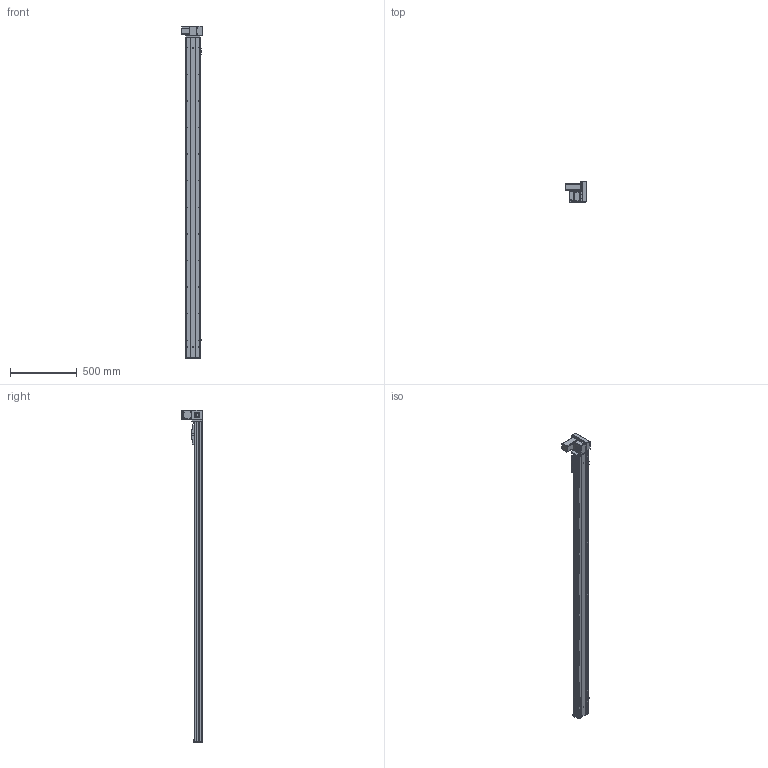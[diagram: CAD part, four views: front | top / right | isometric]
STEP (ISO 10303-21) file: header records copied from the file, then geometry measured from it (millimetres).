
FILE_DESCRIPTION (( 'STEP AP203' ), '1' );
FILE_NAME ('Y10CB-D90-S2150-UR-P400W.STEP', '2020-02-16T04:06:17', ( '微软用户' ), ( '微软中国' ), 'SwSTEP 2.0', 'SolidWorks 2017', '' );
FILE_SCHEMA (( 'CONFIG_CONTROL_DESIGN' ));
Length unit declared in the file: millimetre
Products named in the file (18): Y100-135俋离換覜ん--; 0B-源倛裔啣; Y10B--々湍喘謫眊--666; 0B-埴倛裔啣; Y10B-耜蚾蟀諉啣----; 10CB-詩湍-; 00B-俋欶BM--; Y10CB- 掛极耜裔啣-毀---; 0CB-雄赽釱---; Y10CB-D90-S2150-UR-P400W; Y10C---詩湍揤啣; 0Cb-俋欶---; 10CB9-掛极; Y10B-々湍喘謫眊楊擘啣--; 10CB-耜裔; 0B-萇儂楊擘啣; Y135C-陔俋离換覜結え-; san松下电机400不带刹车----
Assembly tree (21 placements, depth 2):
  Y10CB-D90-S2150-UR-P400W
    0CB-雄赽釱---
    0Cb-俋欶---
    Y10B-々湍喘謫眊楊擘啣--
    0B-萇儂楊擘啣
    san松下电机400不带刹车----
    0B-源倛裔啣
    0B-埴倛裔啣
    10CB-詩湍-
    Y10CB- 掛极耜裔啣-毀---  x2
    Y10C---詩湍揤啣  x2
    10CB9-掛极
    10CB-耜裔
    Y135C-陔俋离換覜結え-
    Y100-135俋离換覜ん--  x3
    Y10B--々湍喘謫眊--666
    Y10B-耜蚾蟀諉啣----
    00B-俋欶BM--
Bounding box: 157 x 155.5 x 2496 mm (x, y, z)
Volume: 5142496.6 mm3; surface area: 2424066.1 mm2
Topology: 21 solids, 21 shells, 1062 faces, 2883 edges, 1874 vertices
Faces by surface type: cylinder 549, plane 489, cone 24
Entity records: 33912 total; most frequent: CARTESIAN_POINT 6357, DIRECTION 5406, ORIENTED_EDGE 5236, EDGE_CURVE 2618, AXIS2_PLACEMENT_3D 1933, VERTEX_POINT 1700, VECTOR 1540, LINE 1540
